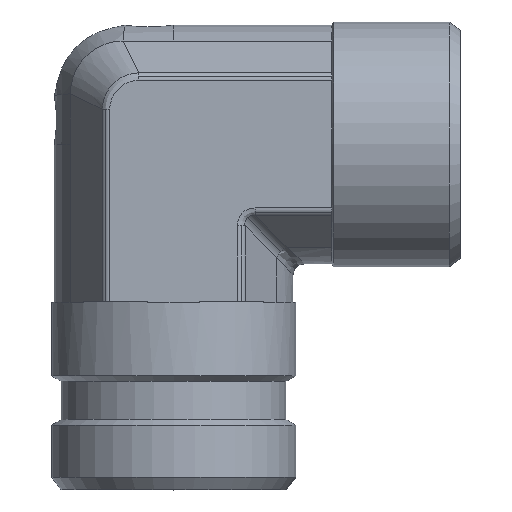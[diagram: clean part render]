
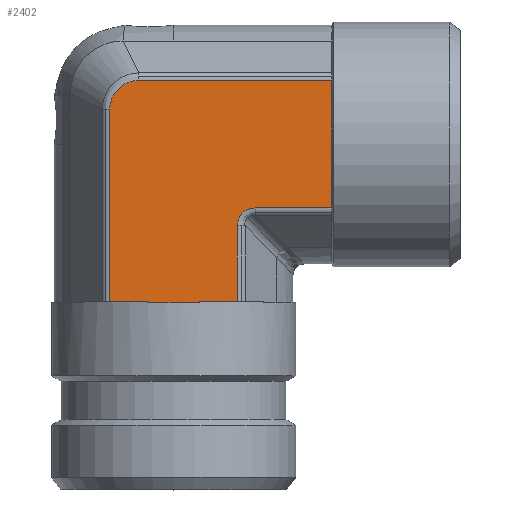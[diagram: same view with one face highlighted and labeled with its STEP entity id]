
A CAD part, top view. The second image highlights one B-rep face of the part: STEP entity #2402.
In plain terms, the highlighted planar face has unit normal (0, 0, 1) as drawn and (0, -1, 0) by its records, which use the part's own axes.
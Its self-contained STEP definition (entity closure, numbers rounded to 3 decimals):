
#361=CARTESIAN_POINT('',(9.429,-20.375,10.897));
#362=VERTEX_POINT('',#361);
#370=CARTESIAN_POINT('',(22.35,-20.375,10.897));
#371=VERTEX_POINT('',#370);
#372=CARTESIAN_POINT('',(9.429,-20.375,10.897));
#373=DIRECTION('',(1.0,0.0,0.0));
#374=VECTOR('',#373,12.921);
#375=LINE('',#372,#374);
#376=EDGE_CURVE('',#362,#371,#375,.T.);
#443=CARTESIAN_POINT('',(-15.397,-20.375,-5.976));
#444=VERTEX_POINT('',#443);
#452=CARTESIAN_POINT('',(-15.397,-20.375,27.0));
#453=VERTEX_POINT('',#452);
#454=CARTESIAN_POINT('',(-15.397,-20.375,-5.976));
#455=DIRECTION('',(0.0,0.0,1.0));
#456=VECTOR('',#455,32.976);
#457=LINE('',#454,#456);
#458=EDGE_CURVE('',#444,#453,#457,.T.);
#845=CARTESIAN_POINT('',(22.35,-20.375,4.495));
#846=VERTEX_POINT('',#845);
#854=CARTESIAN_POINT('',(22.5,-20.375,4.495));
#855=VERTEX_POINT('',#854);
#856=CARTESIAN_POINT('',(22.5,-20.375,4.495));
#857=DIRECTION('',(-1.0,0.0,0.));
#858=VECTOR('',#857,0.15);
#859=LINE('',#856,#858);
#860=EDGE_CURVE('',#855,#846,#859,.T.);
#862=CARTESIAN_POINT('',(22.5,-20.375,-4.495));
#863=VERTEX_POINT('',#862);
#871=CARTESIAN_POINT('',(22.35,-20.375,-4.495));
#872=VERTEX_POINT('',#871);
#873=CARTESIAN_POINT('',(22.35,-20.375,-4.495));
#874=DIRECTION('',(1.0,0.0,0.));
#875=VECTOR('',#874,0.15);
#876=LINE('',#873,#875);
#877=EDGE_CURVE('',#872,#863,#876,.T.);
#1593=CARTESIAN_POINT('',(-4.5,-20.375,27.0));
#1594=VERTEX_POINT('',#1593);
#1595=CARTESIAN_POINT('',(-4.5,-20.375,27.0));
#1596=DIRECTION('',(-1.0,0.0,0.0));
#1597=VECTOR('',#1596,10.897);
#1598=LINE('',#1595,#1597);
#1599=EDGE_CURVE('',#1594,#453,#1598,.T.);
#2105=CARTESIAN_POINT('',(22.35,-20.375,-10.897));
#2106=VERTEX_POINT('',#2105);
#2107=CARTESIAN_POINT('',(22.35,-20.375,-10.897));
#2108=DIRECTION('',(0.0,0.0,1.0));
#2109=VECTOR('',#2108,6.402);
#2110=LINE('',#2107,#2109);
#2111=EDGE_CURVE('',#2106,#872,#2110,.T.);
#2145=CARTESIAN_POINT('',(22.35,-20.375,4.495));
#2146=DIRECTION('',(0.0,0.0,1.0));
#2147=VECTOR('',#2146,6.402);
#2148=LINE('',#2145,#2147);
#2149=EDGE_CURVE('',#846,#371,#2148,.T.);
#2327=CARTESIAN_POINT('',(-10.476,-20.375,-10.897));
#2328=VERTEX_POINT('',#2327);
#2329=CARTESIAN_POINT('',(22.35,-20.375,-10.897));
#2330=DIRECTION('',(-1.0,0.0,0.0));
#2331=VECTOR('',#2330,32.826);
#2332=LINE('',#2329,#2331);
#2333=EDGE_CURVE('',#2106,#2328,#2332,.T.);
#2345=CARTESIAN_POINT('',(-4.5,-20.375,-3.175));
#2346=DIRECTION('',(0.0,-1.0,0.0));
#2347=DIRECTION('',(0.0,0.0,-1.0));
#2348=AXIS2_PLACEMENT_3D('',#2345,#2346,#2347);
#2349=PLANE('',#2348);
#2350=ORIENTED_EDGE('',*,*,#2111,.T.);
#2351=ORIENTED_EDGE('',*,*,#877,.T.);
#2352=CARTESIAN_POINT('',(22.5,-20.375,-4.495));
#2353=DIRECTION('',(0.0,0.0,1.0));
#2354=VECTOR('',#2353,8.991);
#2355=LINE('',#2352,#2354);
#2356=EDGE_CURVE('',#863,#855,#2355,.T.);
#2357=ORIENTED_EDGE('',*,*,#2356,.T.);
#2358=ORIENTED_EDGE('',*,*,#860,.T.);
#2359=ORIENTED_EDGE('',*,*,#2149,.T.);
#2360=ORIENTED_EDGE('',*,*,#376,.F.);
#2361=CARTESIAN_POINT('',(6.397,-20.375,13.929));
#2362=VERTEX_POINT('',#2361);
#2363=CARTESIAN_POINT('',(10.439,-20.375,14.939));
#2364=DIRECTION('',(0.,-1.,0.));
#2365=DIRECTION('',(-0.707,0.,-0.707));
#2366=AXIS2_PLACEMENT_3D('',#2363,#2364,#2365);
#2367=ELLIPSE('',#2366,4.518,3.5);
#2368=EDGE_CURVE('',#2362,#362,#2367,.T.);
#2369=ORIENTED_EDGE('',*,*,#2368,.F.);
#2370=CARTESIAN_POINT('',(6.397,-20.375,27.0));
#2371=VERTEX_POINT('',#2370);
#2372=CARTESIAN_POINT('',(6.397,-20.375,27.0));
#2373=DIRECTION('',(0.0,0.0,-1.0));
#2374=VECTOR('',#2373,13.071);
#2375=LINE('',#2372,#2374);
#2376=EDGE_CURVE('',#2371,#2362,#2375,.T.);
#2377=ORIENTED_EDGE('',*,*,#2376,.F.);
#2378=CARTESIAN_POINT('',(6.397,-20.375,27.0));
#2379=DIRECTION('',(-1.0,0.0,0.0));
#2380=VECTOR('',#2379,10.897);
#2381=LINE('',#2378,#2380);
#2382=EDGE_CURVE('',#2371,#1594,#2381,.T.);
#2383=ORIENTED_EDGE('',*,*,#2382,.T.);
#2384=ORIENTED_EDGE('',*,*,#1599,.T.);
#2385=ORIENTED_EDGE('',*,*,#458,.F.);
#2386=CARTESIAN_POINT('',(-15.397,-20.375,-5.976));
#2387=CARTESIAN_POINT('',(-15.397,-20.375,-6.296));
#2388=CARTESIAN_POINT('',(-15.365,-20.375,-6.619));
#2389=CARTESIAN_POINT('',(-15.2,-20.375,-7.443));
#2390=CARTESIAN_POINT('',(-15.019,-20.375,-7.929));
#2391=CARTESIAN_POINT('',(-14.359,-20.375,-9.1));
#2392=CARTESIAN_POINT('',(-13.773,-20.375,-9.713));
#2393=CARTESIAN_POINT('',(-12.293,-20.375,-10.637));
#2394=CARTESIAN_POINT('',(-11.385,-20.375,-10.897));
#2395=CARTESIAN_POINT('',(-10.476,-20.375,-10.897));
#2396=B_SPLINE_CURVE_WITH_KNOTS('',3,(#2386,#2387,#2388,#2389,#2390,#2391,#2392,#2393,#2394,#2395),.UNSPECIFIED.,.F.,.U.,(4,2,2,2,4),(-7.686,-6.725,-5.188,-2.729,0.0),.UNSPECIFIED.);
#2397=EDGE_CURVE('',#2328,#444,#2396,.F.);
#2398=ORIENTED_EDGE('',*,*,#2397,.F.);
#2399=ORIENTED_EDGE('',*,*,#2333,.F.);
#2400=EDGE_LOOP('',(#2350,#2351,#2357,#2358,#2359,#2360,#2369,#2377,#2383,#2384,#2385,#2398,#2399));
#2401=FACE_OUTER_BOUND('',#2400,.T.);
#2402=ADVANCED_FACE('',(#2401),#2349,.T.);
